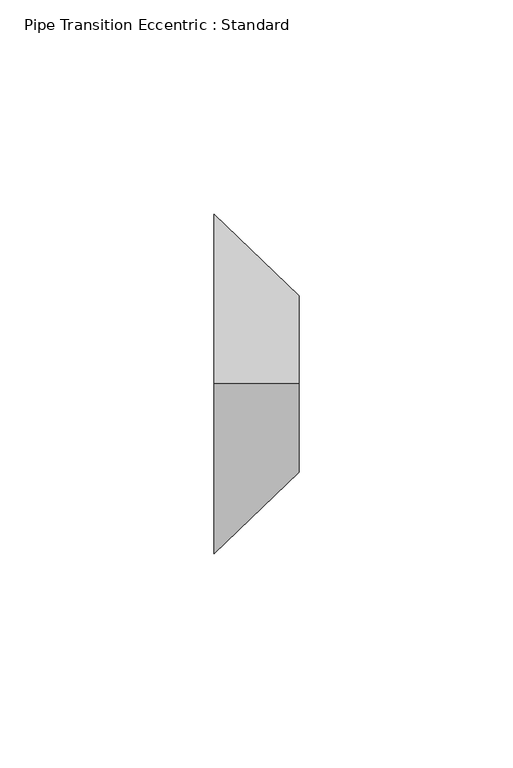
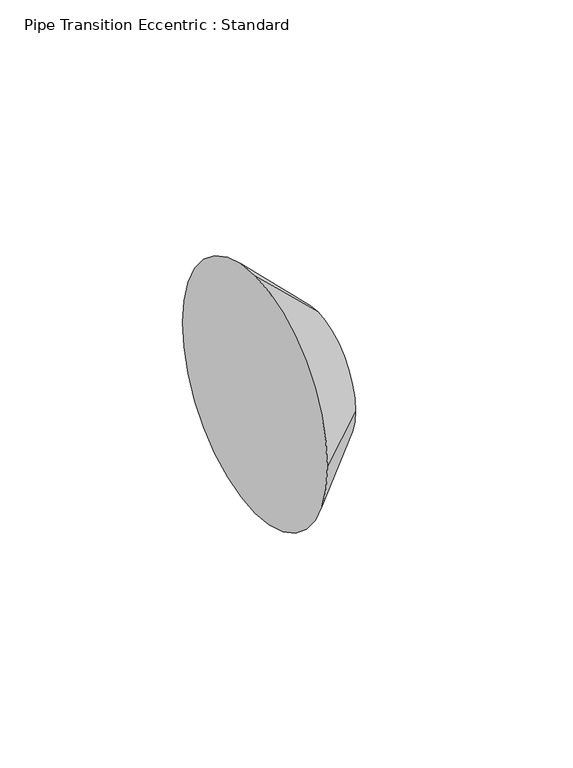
"""IFC4 building model written with IfcOpenShell, lengths in millimetres: pipe fitting geometry, Pipe Transition Eccentric : Standard."""

from ifc_helpers import new_model, si_unit, frame, origin, place, context, project, spatial, polyline, circle_curve, source, transform, mapped, element, save
from ifc_brep_helpers import plane_surface, revolved_surface, advanced_brep


def pipe_transition_eccentric_standard_d8d92941(model_context):
    return source(origin(), model_context, "Body", "AdvancedBrep", [
        advanced_brep(
        [(19.84375, 0.0, 20.6375), (19.84375, -20.6375, 0.0), (19.84375, 0.0, -20.6375), (19.84375, 20.6375, 0.0), (0.0, 0.0, 39.6875), (0.0, 39.6875, 0.0), (0.0, 0.0, -39.6875), (0.0, -39.6875, 0.0)],
        [
            (0, 1, circle_curve(frame((19.84375, 0.0, 0.0), z_axis=(1.0, 0.0, 0.0), x_axis=(0.0, 0.0, 1.0)), 20.6375)),
            (1, 2, circle_curve(frame((19.84375, 0.0, 0.0), z_axis=(1.0, 0.0, 0.0), x_axis=(0.0, -1.0, 0.0)), 20.6375)),
            (2, 3, circle_curve(frame((19.84375, 0.0, 0.0), z_axis=(1.0, 0.0, 0.0), x_axis=(0.0, 0.0, -1.0)), 20.6375)),
            (3, 0, circle_curve(frame((19.84375, 0.0, 0.0), z_axis=(1.0, 0.0, 0.0), x_axis=(0.0, 1.0, 0.0)), 20.6375)),
            (4, 5, circle_curve(frame((0.0, 0.0, 0.0), z_axis=(-1.0, 0.0, 0.0), x_axis=(0.0, 1.0, 0.0)), 39.6875)),
            (5, 6, circle_curve(frame((0.0, 0.0, 0.0), z_axis=(-1.0, 0.0, 0.0), x_axis=(0.0, 0.0, -1.0)), 39.6875)),
            (6, 7, circle_curve(frame((0.0, 0.0, 0.0), z_axis=(-1.0, 0.0, 0.0), x_axis=(0.0, -1.0, 0.0)), 39.6875)),
            (7, 4, circle_curve(frame((0.0, 0.0, 0.0), z_axis=(-1.0, 0.0, 0.0), x_axis=(0.0, 0.0, 1.0)), 39.6875)),
            (7, 1),
            (0, 4),
            (6, 2),
            (5, 3),
        ],
        [
            plane_surface(frame((19.84375, 0.0, 0.0), z_axis=(1.0, 0.0, 0.0), x_axis=(0.0, -1.0, 0.0))),
            plane_surface(frame((0.0, 0.0, 0.0), z_axis=(-1.0, 0.0, 0.0), x_axis=(0.0, -1.0, 0.0))),
            revolved_surface(polyline([(19.84375, 0.0, 20.63749998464), (0.0, 0.0, 39.6875)]), (41.3411458, 0.0, 0.0), (-1.0, 0.0, 0.0)),
            revolved_surface(polyline([(19.84375, -20.63749998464, 0.0), (0.0, -39.6875, 0.0)]), (41.3411458, 0.0, 0.0), (-1.0, 0.0, 0.0)),
            revolved_surface(polyline([(19.84375, 0.0, -20.63749998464), (0.0, 0.0, -39.6875)]), (41.3411458, 0.0, 0.0), (-1.0, 0.0, 0.0)),
            revolved_surface(polyline([(19.84375, 20.63749998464, 0.0), (0.0, 39.6875, 0.0)]), (41.3411458, 0.0, 0.0), (-1.0, 0.0, 0.0)),
        ],
        [
            (0, [[1, 2, 3, 4]]),
            (1, [[5, 6, 7, 8]]),
            (2, [[-8, 9, -1, 10]]),
            (3, [[-7, 11, -2, -9]]),
            (4, [[-6, 12, -3, -11]]),
            (5, [[-5, -10, -4, -12]]),
        ],
    ),
        advanced_brep(
        [(19.84375, 0.0, 20.6375), (19.84375, -20.6375, 0.0), (19.84375, 0.0, -20.6375), (19.84375, 20.6375, 0.0), (0.0, 0.0, 39.6875), (0.0, 39.6875, 0.0), (0.0, 0.0, -39.6875), (0.0, -39.6875, 0.0)],
        [
            (0, 1, circle_curve(frame((19.84375, 0.0, 0.0), z_axis=(1.0, 0.0, 0.0), x_axis=(0.0, 0.0, 1.0)), 20.6375)),
            (1, 2, circle_curve(frame((19.84375, 0.0, 0.0), z_axis=(1.0, 0.0, 0.0), x_axis=(0.0, -1.0, 0.0)), 20.6375)),
            (2, 3, circle_curve(frame((19.84375, 0.0, 0.0), z_axis=(1.0, 0.0, 0.0), x_axis=(0.0, 0.0, -1.0)), 20.6375)),
            (3, 0, circle_curve(frame((19.84375, 0.0, 0.0), z_axis=(1.0, 0.0, 0.0), x_axis=(0.0, 1.0, 0.0)), 20.6375)),
            (4, 5, circle_curve(frame((0.0, 0.0, 0.0), z_axis=(-1.0, 0.0, 0.0), x_axis=(0.0, 1.0, 0.0)), 39.6875)),
            (5, 6, circle_curve(frame((0.0, 0.0, 0.0), z_axis=(-1.0, 0.0, 0.0), x_axis=(0.0, 0.0, -1.0)), 39.6875)),
            (6, 7, circle_curve(frame((0.0, 0.0, 0.0), z_axis=(-1.0, 0.0, 0.0), x_axis=(0.0, -1.0, 0.0)), 39.6875)),
            (7, 4, circle_curve(frame((0.0, 0.0, 0.0), z_axis=(-1.0, 0.0, 0.0), x_axis=(0.0, 0.0, 1.0)), 39.6875)),
            (7, 1),
            (0, 4),
            (6, 2),
            (5, 3),
        ],
        [
            plane_surface(frame((19.84375, 0.0, 0.0), z_axis=(1.0, 0.0, 0.0), x_axis=(0.0, -1.0, 0.0))),
            plane_surface(frame((0.0, 0.0, 0.0), z_axis=(-1.0, 0.0, 0.0), x_axis=(0.0, -1.0, 0.0))),
            revolved_surface(polyline([(19.84375, 0.0, 20.63749998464), (0.0, 0.0, 39.6875)]), (41.3411458, 0.0, 0.0), (-1.0, 0.0, 0.0)),
            revolved_surface(polyline([(19.84375, -20.63749998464, 0.0), (0.0, -39.6875, 0.0)]), (41.3411458, 0.0, 0.0), (-1.0, 0.0, 0.0)),
            revolved_surface(polyline([(19.84375, 0.0, -20.63749998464), (0.0, 0.0, -39.6875)]), (41.3411458, 0.0, 0.0), (-1.0, 0.0, 0.0)),
            revolved_surface(polyline([(19.84375, 20.63749998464, 0.0), (0.0, 39.6875, 0.0)]), (41.3411458, 0.0, 0.0), (-1.0, 0.0, 0.0)),
        ],
        [
            (0, [[1, 2, 3, 4]]),
            (1, [[5, 6, 7, 8]]),
            (2, [[-8, 9, -1, 10]]),
            (3, [[-7, 11, -2, -9]]),
            (4, [[-6, 12, -3, -11]]),
            (5, [[-5, -10, -4, -12]]),
        ],
    ),
    ])


if __name__ == "__main__":
    model = new_model("IFC4")
    model_context = context("Model", 3, world=origin())
    ifc_project = project(units=[si_unit("LENGTHUNIT", "METRE", prefix="MILLI")], contexts=[model_context])
    site = spatial("IfcSite", under=ifc_project)
    building = spatial("IfcBuilding", under=site)
    placement = place(None, origin())
    pipe_transition_eccentric_standard_shape = pipe_transition_eccentric_standard_d8d92941(model_context)
    element("IfcPipeFitting", 1, ObjectType="Pipe Transition Eccentric : Standard", at=placement, inside=building, context=model_context, shape_type="MappedRepresentation", body=[
        mapped(pipe_transition_eccentric_standard_shape, transform((0.0, 0.0, 0.0), x_axis=(1.0, 0.0, 0.0), y_axis=(0.0, 1.0, 0.0), z_axis=(0.0, 0.0, 1.0))),
    ])
    save(model, "model.ifc")
